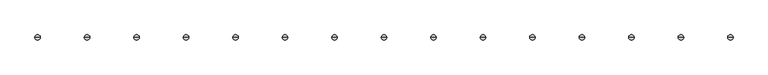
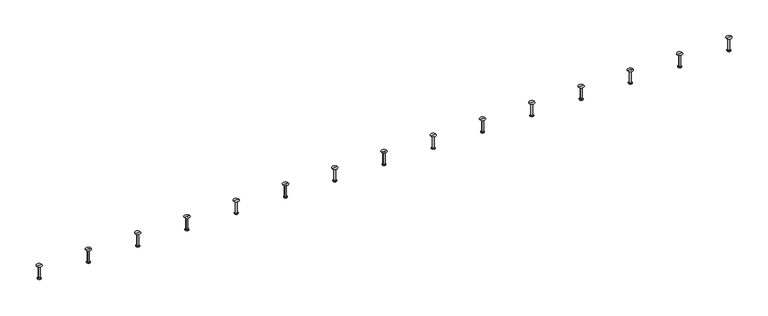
"""IFC4 building model written with IfcOpenShell, lengths in millimetres: fastener geometry, JTA-W JORDAHL® AnchorChannels : JTA-W L=6000 mm."""

from ifc_helpers import new_model, si_unit, frame, origin, place, context, project, spatial, polyline, circle_curve, source, transform, mapped, element, save
from ifc_brep_helpers import plane_surface, cylinder_surface, revolved_surface, advanced_brep


def fastener_90f1b800(model_context):
    return source(origin(), model_context, "Body", "AdvancedBrep", [
        advanced_brep(
        [(3991.6666667, 0.0, -30.0), (3978.1666667, 0.0, -30.0), (4005.1666667, 0.0, -30.0), (3983.1666667, 0.0, -100.0), (3991.6666667, 0.0, -100.0), (4000.1666667, 0.0, -100.0), (3983.1666667, 0.0, -98.0), (4000.1666667, 0.0, -98.0), (3987.1666667, 0.0, -95.6905989), (3996.1666667, 0.0, -95.6905989), (3987.1666667, 0.0, -32.5), (3996.1666667, 0.0, -32.5)],
        [
            (0, 1),
            (1, 2, circle_curve(frame((3991.6666667, 0.0, -30.0), z_axis=(0.0, 0.0, 1.0), x_axis=(1.0, 0.0, 0.0)), 13.5)),
            (2, 0),
            (2, 1, circle_curve(frame((3991.6666667, 0.0, -30.0), z_axis=(0.0, 0.0, 1.0), x_axis=(1.0, 0.0, 0.0)), 13.5)),
            (3, 4),
            (4, 5),
            (5, 3, circle_curve(frame((3991.6666667, 0.0, -100.0), z_axis=(0.0, 0.0, -1.0), x_axis=(1.0, 0.0, 0.0)), 8.5)),
            (3, 5, circle_curve(frame((3991.6666667, 0.0, -100.0), z_axis=(0.0, 0.0, -1.0), x_axis=(1.0, 0.0, 0.0)), 8.5)),
            (6, 3),
            (5, 7),
            (7, 6, circle_curve(frame((3991.6666667, 0.0, -98.0), z_axis=(0.0, 0.0, -1.0), x_axis=(1.0, 0.0, 0.0)), 8.5)),
            (6, 7, circle_curve(frame((3991.6666667, 0.0, -98.0), z_axis=(0.0, 0.0, -1.0), x_axis=(1.0, 0.0, 0.0)), 8.5)),
            (8, 6),
            (7, 9),
            (9, 8, circle_curve(frame((3991.6666667, 0.0, -95.6905989), z_axis=(0.0, 0.0, -1.0), x_axis=(1.0, 0.0, 0.0)), 4.5)),
            (8, 9, circle_curve(frame((3991.6666667, 0.0, -95.6905989), z_axis=(0.0, 0.0, -1.0), x_axis=(1.0, 0.0, 0.0)), 4.5)),
            (10, 8),
            (9, 11),
            (11, 10, circle_curve(frame((3991.6666667, 0.0, -32.5), z_axis=(0.0, 0.0, -1.0), x_axis=(1.0, 0.0, 0.0)), 4.5)),
            (10, 11, circle_curve(frame((3991.6666667, 0.0, -32.5), z_axis=(0.0, 0.0, -1.0), x_axis=(1.0, 0.0, 0.0)), 4.5)),
            (1, 10),
            (11, 2),
        ],
        [
            plane_surface(frame((3991.6666667, 0.0, -30.0), z_axis=(0.0, 0.0, 1.0), x_axis=(1.0, 0.0, 0.0))),
            plane_surface(frame((3991.6666667, 0.0, -100.0), z_axis=(0.0, 0.0, -1.0), x_axis=(1.0, 0.0, 0.0))),
            cylinder_surface(frame((3991.6666667, 0.0, 2284.3150031), z_axis=(0.0, 0.0, 1.0), x_axis=(1.0, 0.0, 0.0)), 8.5),
            revolved_surface(polyline([(4000.1666667, 0.0, -98.0), (3996.1666667, 0.0, -95.6905989)]), (3991.6666667, 0.0, 2284.3150031), (0.0, 0.0, 1.0)),
            cylinder_surface(frame((3991.6666667, 0.0, 2284.3150031), z_axis=(0.0, 0.0, 1.0), x_axis=(1.0, 0.0, 0.0)), 4.5),
            revolved_surface(polyline([(3996.1666667, 0.0, -32.5), (4005.1666667, 0.0, -30.0)]), (3991.6666667, 0.0, 2284.3150031), (0.0, 0.0, 1.0)),
        ],
        [
            (0, [[1, 2, 3]]),
            (0, [[-3, 4, -1]]),
            (1, [[5, 6, 7]]),
            (1, [[-6, -5, 8]]),
            (2, [[9, -7, 10, 11]]),
            (2, [[-10, -8, -9, 12]]),
            (3, [[13, -11, 14, 15]]),
            (3, [[-14, -12, -13, 16]]),
            (4, [[17, -15, 18, 19]]),
            (4, [[-18, -16, -17, 20]]),
            (5, [[21, -19, 22, -2]]),
            (5, [[-22, -20, -21, -4]]),
        ],
    ),
        advanced_brep(
        [(3743.75, 0.0, -30.0), (3730.25, 0.0, -30.0), (3757.25, 0.0, -30.0), (3735.25, 0.0, -100.0), (3743.75, 0.0, -100.0), (3752.25, 0.0, -100.0), (3735.25, 0.0, -98.0), (3752.25, 0.0, -98.0), (3739.25, 0.0, -95.6905989), (3748.25, 0.0, -95.6905989), (3739.25, 0.0, -32.5), (3748.25, 0.0, -32.5)],
        [
            (0, 1),
            (1, 2, circle_curve(frame((3743.75, 0.0, -30.0), z_axis=(0.0, 0.0, 1.0), x_axis=(1.0, 0.0, 0.0)), 13.5)),
            (2, 0),
            (2, 1, circle_curve(frame((3743.75, 0.0, -30.0), z_axis=(0.0, 0.0, 1.0), x_axis=(1.0, 0.0, 0.0)), 13.5)),
            (3, 4),
            (4, 5),
            (5, 3, circle_curve(frame((3743.75, 0.0, -100.0), z_axis=(0.0, 0.0, -1.0), x_axis=(1.0, 0.0, 0.0)), 8.5)),
            (3, 5, circle_curve(frame((3743.75, 0.0, -100.0), z_axis=(0.0, 0.0, -1.0), x_axis=(1.0, 0.0, 0.0)), 8.5)),
            (6, 3),
            (5, 7),
            (7, 6, circle_curve(frame((3743.75, 0.0, -98.0), z_axis=(0.0, 0.0, -1.0), x_axis=(1.0, 0.0, 0.0)), 8.5)),
            (6, 7, circle_curve(frame((3743.75, 0.0, -98.0), z_axis=(0.0, 0.0, -1.0), x_axis=(1.0, 0.0, 0.0)), 8.5)),
            (8, 6),
            (7, 9),
            (9, 8, circle_curve(frame((3743.75, 0.0, -95.6905989), z_axis=(0.0, 0.0, -1.0), x_axis=(1.0, 0.0, 0.0)), 4.5)),
            (8, 9, circle_curve(frame((3743.75, 0.0, -95.6905989), z_axis=(0.0, 0.0, -1.0), x_axis=(1.0, 0.0, 0.0)), 4.5)),
            (10, 8),
            (9, 11),
            (11, 10, circle_curve(frame((3743.75, 0.0, -32.5), z_axis=(0.0, 0.0, -1.0), x_axis=(1.0, 0.0, 0.0)), 4.5)),
            (10, 11, circle_curve(frame((3743.75, 0.0, -32.5), z_axis=(0.0, 0.0, -1.0), x_axis=(1.0, 0.0, 0.0)), 4.5)),
            (1, 10),
            (11, 2),
        ],
        [
            plane_surface(frame((3743.75, 0.0, -30.0), z_axis=(0.0, 0.0, 1.0), x_axis=(1.0, 0.0, 0.0))),
            plane_surface(frame((3743.75, 0.0, -100.0), z_axis=(0.0, 0.0, -1.0), x_axis=(1.0, 0.0, 0.0))),
            cylinder_surface(frame((3743.75, 0.0, 2284.3150031), z_axis=(0.0, 0.0, 1.0), x_axis=(1.0, 0.0, 0.0)), 8.5),
            revolved_surface(polyline([(3752.25, 0.0, -98.0), (3748.25, 0.0, -95.6905989)]), (3743.75, 0.0, 2284.3150031), (0.0, 0.0, 1.0)),
            cylinder_surface(frame((3743.75, 0.0, 2284.3150031), z_axis=(0.0, 0.0, 1.0), x_axis=(1.0, 0.0, 0.0)), 4.5),
            revolved_surface(polyline([(3748.25, 0.0, -32.5), (3757.25, 0.0, -30.0)]), (3743.75, 0.0, 2284.3150031), (0.0, 0.0, 1.0)),
        ],
        [
            (0, [[1, 2, 3]]),
            (0, [[-3, 4, -1]]),
            (1, [[5, 6, 7]]),
            (1, [[-6, -5, 8]]),
            (2, [[9, -7, 10, 11]]),
            (2, [[-10, -8, -9, 12]]),
            (3, [[13, -11, 14, 15]]),
            (3, [[-14, -12, -13, 16]]),
            (4, [[17, -15, 18, 19]]),
            (4, [[-18, -16, -17, 20]]),
            (5, [[21, -19, 22, -2]]),
            (5, [[-22, -20, -21, -4]]),
        ],
    ),
        advanced_brep(
        [(3495.8333333, 0.0, -30.0), (3482.3333333, 0.0, -30.0), (3509.3333333, 0.0, -30.0), (3487.3333333, 0.0, -100.0), (3495.8333333, 0.0, -100.0), (3504.3333333, 0.0, -100.0), (3487.3333333, 0.0, -98.0), (3504.3333333, 0.0, -98.0), (3491.3333333, 0.0, -95.6905989), (3500.3333333, 0.0, -95.6905989), (3491.3333333, 0.0, -32.5), (3500.3333333, 0.0, -32.5)],
        [
            (0, 1),
            (1, 2, circle_curve(frame((3495.8333333, 0.0, -30.0), z_axis=(0.0, 0.0, 1.0), x_axis=(1.0, 0.0, 0.0)), 13.5)),
            (2, 0),
            (2, 1, circle_curve(frame((3495.8333333, 0.0, -30.0), z_axis=(0.0, 0.0, 1.0), x_axis=(1.0, 0.0, 0.0)), 13.5)),
            (3, 4),
            (4, 5),
            (5, 3, circle_curve(frame((3495.8333333, 0.0, -100.0), z_axis=(0.0, 0.0, -1.0), x_axis=(1.0, 0.0, 0.0)), 8.5)),
            (3, 5, circle_curve(frame((3495.8333333, 0.0, -100.0), z_axis=(0.0, 0.0, -1.0), x_axis=(1.0, 0.0, 0.0)), 8.5)),
            (6, 3),
            (5, 7),
            (7, 6, circle_curve(frame((3495.8333333, 0.0, -98.0), z_axis=(0.0, 0.0, -1.0), x_axis=(1.0, 0.0, 0.0)), 8.5)),
            (6, 7, circle_curve(frame((3495.8333333, 0.0, -98.0), z_axis=(0.0, 0.0, -1.0), x_axis=(1.0, 0.0, 0.0)), 8.5)),
            (8, 6),
            (7, 9),
            (9, 8, circle_curve(frame((3495.8333333, 0.0, -95.6905989), z_axis=(0.0, 0.0, -1.0), x_axis=(1.0, 0.0, 0.0)), 4.5)),
            (8, 9, circle_curve(frame((3495.8333333, 0.0, -95.6905989), z_axis=(0.0, 0.0, -1.0), x_axis=(1.0, 0.0, 0.0)), 4.5)),
            (10, 8),
            (9, 11),
            (11, 10, circle_curve(frame((3495.8333333, 0.0, -32.5), z_axis=(0.0, 0.0, -1.0), x_axis=(1.0, 0.0, 0.0)), 4.5)),
            (10, 11, circle_curve(frame((3495.8333333, 0.0, -32.5), z_axis=(0.0, 0.0, -1.0), x_axis=(1.0, 0.0, 0.0)), 4.5)),
            (1, 10),
            (11, 2),
        ],
        [
            plane_surface(frame((3495.8333333, 0.0, -30.0), z_axis=(0.0, 0.0, 1.0), x_axis=(1.0, 0.0, 0.0))),
            plane_surface(frame((3495.8333333, 0.0, -100.0), z_axis=(0.0, 0.0, -1.0), x_axis=(1.0, 0.0, 0.0))),
            cylinder_surface(frame((3495.8333333, 0.0, 2284.3150031), z_axis=(0.0, 0.0, 1.0), x_axis=(1.0, 0.0, 0.0)), 8.5),
            revolved_surface(polyline([(3504.3333333, 0.0, -98.0), (3500.3333333, 0.0, -95.6905989)]), (3495.8333333, 0.0, 2284.3150031), (0.0, 0.0, 1.0)),
            cylinder_surface(frame((3495.8333333, 0.0, 2284.3150031), z_axis=(0.0, 0.0, 1.0), x_axis=(1.0, 0.0, 0.0)), 4.5),
            revolved_surface(polyline([(3500.3333333, 0.0, -32.5), (3509.3333333, 0.0, -30.0)]), (3495.8333333, 0.0, 2284.3150031), (0.0, 0.0, 1.0)),
        ],
        [
            (0, [[1, 2, 3]]),
            (0, [[-3, 4, -1]]),
            (1, [[5, 6, 7]]),
            (1, [[-6, -5, 8]]),
            (2, [[9, -7, 10, 11]]),
            (2, [[-10, -8, -9, 12]]),
            (3, [[13, -11, 14, 15]]),
            (3, [[-14, -12, -13, 16]]),
            (4, [[17, -15, 18, 19]]),
            (4, [[-18, -16, -17, 20]]),
            (5, [[21, -19, 22, -2]]),
            (5, [[-22, -20, -21, -4]]),
        ],
    ),
        advanced_brep(
        [(3247.9166667, 0.0, -30.0), (3234.4166667, 0.0, -30.0), (3261.4166667, 0.0, -30.0), (3239.4166667, 0.0, -100.0), (3247.9166667, 0.0, -100.0), (3256.4166667, 0.0, -100.0), (3239.4166667, 0.0, -98.0), (3256.4166667, 0.0, -98.0), (3243.4166667, 0.0, -95.6905989), (3252.4166667, 0.0, -95.6905989), (3243.4166667, 0.0, -32.5), (3252.4166667, 0.0, -32.5)],
        [
            (0, 1),
            (1, 2, circle_curve(frame((3247.9166667, 0.0, -30.0), z_axis=(0.0, 0.0, 1.0), x_axis=(1.0, 0.0, 0.0)), 13.5)),
            (2, 0),
            (2, 1, circle_curve(frame((3247.9166667, 0.0, -30.0), z_axis=(0.0, 0.0, 1.0), x_axis=(1.0, 0.0, 0.0)), 13.5)),
            (3, 4),
            (4, 5),
            (5, 3, circle_curve(frame((3247.9166667, 0.0, -100.0), z_axis=(0.0, 0.0, -1.0), x_axis=(1.0, 0.0, 0.0)), 8.5)),
            (3, 5, circle_curve(frame((3247.9166667, 0.0, -100.0), z_axis=(0.0, 0.0, -1.0), x_axis=(1.0, 0.0, 0.0)), 8.5)),
            (6, 3),
            (5, 7),
            (7, 6, circle_curve(frame((3247.9166667, 0.0, -98.0), z_axis=(0.0, 0.0, -1.0), x_axis=(1.0, 0.0, 0.0)), 8.5)),
            (6, 7, circle_curve(frame((3247.9166667, 0.0, -98.0), z_axis=(0.0, 0.0, -1.0), x_axis=(1.0, 0.0, 0.0)), 8.5)),
            (8, 6),
            (7, 9),
            (9, 8, circle_curve(frame((3247.9166667, 0.0, -95.6905989), z_axis=(0.0, 0.0, -1.0), x_axis=(1.0, 0.0, 0.0)), 4.5)),
            (8, 9, circle_curve(frame((3247.9166667, 0.0, -95.6905989), z_axis=(0.0, 0.0, -1.0), x_axis=(1.0, 0.0, 0.0)), 4.5)),
            (10, 8),
            (9, 11),
            (11, 10, circle_curve(frame((3247.9166667, 0.0, -32.5), z_axis=(0.0, 0.0, -1.0), x_axis=(1.0, 0.0, 0.0)), 4.5)),
            (10, 11, circle_curve(frame((3247.9166667, 0.0, -32.5), z_axis=(0.0, 0.0, -1.0), x_axis=(1.0, 0.0, 0.0)), 4.5)),
            (1, 10),
            (11, 2),
        ],
        [
            plane_surface(frame((3247.9166667, 0.0, -30.0), z_axis=(0.0, 0.0, 1.0), x_axis=(1.0, 0.0, 0.0))),
            plane_surface(frame((3247.9166667, 0.0, -100.0), z_axis=(0.0, 0.0, -1.0), x_axis=(1.0, 0.0, 0.0))),
            cylinder_surface(frame((3247.9166667, 0.0, 2284.3150031), z_axis=(0.0, 0.0, 1.0), x_axis=(1.0, 0.0, 0.0)), 8.5),
            revolved_surface(polyline([(3256.4166667, 0.0, -98.0), (3252.4166667, 0.0, -95.6905989)]), (3247.9166667, 0.0, 2284.3150031), (0.0, 0.0, 1.0)),
            cylinder_surface(frame((3247.9166667, 0.0, 2284.3150031), z_axis=(0.0, 0.0, 1.0), x_axis=(1.0, 0.0, 0.0)), 4.5),
            revolved_surface(polyline([(3252.4166667, 0.0, -32.5), (3261.4166667, 0.0, -30.0)]), (3247.9166667, 0.0, 2284.3150031), (0.0, 0.0, 1.0)),
        ],
        [
            (0, [[1, 2, 3]]),
            (0, [[-3, 4, -1]]),
            (1, [[5, 6, 7]]),
            (1, [[-6, -5, 8]]),
            (2, [[9, -7, 10, 11]]),
            (2, [[-10, -8, -9, 12]]),
            (3, [[13, -11, 14, 15]]),
            (3, [[-14, -12, -13, 16]]),
            (4, [[17, -15, 18, 19]]),
            (4, [[-18, -16, -17, 20]]),
            (5, [[21, -19, 22, -2]]),
            (5, [[-22, -20, -21, -4]]),
        ],
    ),
        advanced_brep(
        [(3000.0, 0.0, -30.0), (2986.5, 0.0, -30.0), (3013.5, 0.0, -30.0), (2991.5, 0.0, -100.0), (3000.0, 0.0, -100.0), (3008.5, 0.0, -100.0), (2991.5, 0.0, -98.0), (3008.5, 0.0, -98.0), (2995.5, 0.0, -95.6905989), (3004.5, 0.0, -95.6905989), (2995.5, 0.0, -32.5), (3004.5, 0.0, -32.5)],
        [
            (0, 1),
            (1, 2, circle_curve(frame((3000.0, 0.0, -30.0), z_axis=(0.0, 0.0, 1.0), x_axis=(1.0, 0.0, 0.0)), 13.5)),
            (2, 0),
            (2, 1, circle_curve(frame((3000.0, 0.0, -30.0), z_axis=(0.0, 0.0, 1.0), x_axis=(1.0, 0.0, 0.0)), 13.5)),
            (3, 4),
            (4, 5),
            (5, 3, circle_curve(frame((3000.0, 0.0, -100.0), z_axis=(0.0, 0.0, -1.0), x_axis=(1.0, 0.0, 0.0)), 8.5)),
            (3, 5, circle_curve(frame((3000.0, 0.0, -100.0), z_axis=(0.0, 0.0, -1.0), x_axis=(1.0, 0.0, 0.0)), 8.5)),
            (6, 3),
            (5, 7),
            (7, 6, circle_curve(frame((3000.0, 0.0, -98.0), z_axis=(0.0, 0.0, -1.0), x_axis=(1.0, 0.0, 0.0)), 8.5)),
            (6, 7, circle_curve(frame((3000.0, 0.0, -98.0), z_axis=(0.0, 0.0, -1.0), x_axis=(1.0, 0.0, 0.0)), 8.5)),
            (8, 6),
            (7, 9),
            (9, 8, circle_curve(frame((3000.0, 0.0, -95.6905989), z_axis=(0.0, 0.0, -1.0), x_axis=(1.0, 0.0, 0.0)), 4.5)),
            (8, 9, circle_curve(frame((3000.0, 0.0, -95.6905989), z_axis=(0.0, 0.0, -1.0), x_axis=(1.0, 0.0, 0.0)), 4.5)),
            (10, 8),
            (9, 11),
            (11, 10, circle_curve(frame((3000.0, 0.0, -32.5), z_axis=(0.0, 0.0, -1.0), x_axis=(1.0, 0.0, 0.0)), 4.5)),
            (10, 11, circle_curve(frame((3000.0, 0.0, -32.5), z_axis=(0.0, 0.0, -1.0), x_axis=(1.0, 0.0, 0.0)), 4.5)),
            (1, 10),
            (11, 2),
        ],
        [
            plane_surface(frame((3000.0, 0.0, -30.0), z_axis=(0.0, 0.0, 1.0), x_axis=(1.0, 0.0, 0.0))),
            plane_surface(frame((3000.0, 0.0, -100.0), z_axis=(0.0, 0.0, -1.0), x_axis=(1.0, 0.0, 0.0))),
            cylinder_surface(frame((3000.0, 0.0, 2284.3150031), z_axis=(0.0, 0.0, 1.0), x_axis=(1.0, 0.0, 0.0)), 8.5),
            revolved_surface(polyline([(3008.5, 0.0, -98.0), (3004.5, 0.0, -95.6905989)]), (3000.0, 0.0, 2284.3150031), (0.0, 0.0, 1.0)),
            cylinder_surface(frame((3000.0, 0.0, 2284.3150031), z_axis=(0.0, 0.0, 1.0), x_axis=(1.0, 0.0, 0.0)), 4.5),
            revolved_surface(polyline([(3004.5, 0.0, -32.5), (3013.5, 0.0, -30.0)]), (3000.0, 0.0, 2284.3150031), (0.0, 0.0, 1.0)),
        ],
        [
            (0, [[1, 2, 3]]),
            (0, [[-3, 4, -1]]),
            (1, [[5, 6, 7]]),
            (1, [[-6, -5, 8]]),
            (2, [[9, -7, 10, 11]]),
            (2, [[-10, -8, -9, 12]]),
            (3, [[13, -11, 14, 15]]),
            (3, [[-14, -12, -13, 16]]),
            (4, [[17, -15, 18, 19]]),
            (4, [[-18, -16, -17, 20]]),
            (5, [[21, -19, 22, -2]]),
            (5, [[-22, -20, -21, -4]]),
        ],
    ),
        advanced_brep(
        [(2752.0833333, 0.0, -30.0), (2738.5833333, 0.0, -30.0), (2765.5833333, 0.0, -30.0), (2743.5833333, 0.0, -100.0), (2752.0833333, 0.0, -100.0), (2760.5833333, 0.0, -100.0), (2743.5833333, 0.0, -98.0), (2760.5833333, 0.0, -98.0), (2747.5833333, 0.0, -95.6905989), (2756.5833333, 0.0, -95.6905989), (2747.5833333, 0.0, -32.5), (2756.5833333, 0.0, -32.5)],
        [
            (0, 1),
            (1, 2, circle_curve(frame((2752.0833333, 0.0, -30.0), z_axis=(0.0, 0.0, 1.0), x_axis=(1.0, 0.0, 0.0)), 13.5)),
            (2, 0),
            (2, 1, circle_curve(frame((2752.0833333, 0.0, -30.0), z_axis=(0.0, 0.0, 1.0), x_axis=(1.0, 0.0, 0.0)), 13.5)),
            (3, 4),
            (4, 5),
            (5, 3, circle_curve(frame((2752.0833333, 0.0, -100.0), z_axis=(0.0, 0.0, -1.0), x_axis=(1.0, 0.0, 0.0)), 8.5)),
            (3, 5, circle_curve(frame((2752.0833333, 0.0, -100.0), z_axis=(0.0, 0.0, -1.0), x_axis=(1.0, 0.0, 0.0)), 8.5)),
            (6, 3),
            (5, 7),
            (7, 6, circle_curve(frame((2752.0833333, 0.0, -98.0), z_axis=(0.0, 0.0, -1.0), x_axis=(1.0, 0.0, 0.0)), 8.5)),
            (6, 7, circle_curve(frame((2752.0833333, 0.0, -98.0), z_axis=(0.0, 0.0, -1.0), x_axis=(1.0, 0.0, 0.0)), 8.5)),
            (8, 6),
            (7, 9),
            (9, 8, circle_curve(frame((2752.0833333, 0.0, -95.6905989), z_axis=(0.0, 0.0, -1.0), x_axis=(1.0, 0.0, 0.0)), 4.5)),
            (8, 9, circle_curve(frame((2752.0833333, 0.0, -95.6905989), z_axis=(0.0, 0.0, -1.0), x_axis=(1.0, 0.0, 0.0)), 4.5)),
            (10, 8),
            (9, 11),
            (11, 10, circle_curve(frame((2752.0833333, 0.0, -32.5), z_axis=(0.0, 0.0, -1.0), x_axis=(1.0, 0.0, 0.0)), 4.5)),
            (10, 11, circle_curve(frame((2752.0833333, 0.0, -32.5), z_axis=(0.0, 0.0, -1.0), x_axis=(1.0, 0.0, 0.0)), 4.5)),
            (1, 10),
            (11, 2),
        ],
        [
            plane_surface(frame((2752.0833333, 0.0, -30.0), z_axis=(0.0, 0.0, 1.0), x_axis=(1.0, 0.0, 0.0))),
            plane_surface(frame((2752.0833333, 0.0, -100.0), z_axis=(0.0, 0.0, -1.0), x_axis=(1.0, 0.0, 0.0))),
            cylinder_surface(frame((2752.0833333, 0.0, 2284.3150031), z_axis=(0.0, 0.0, 1.0), x_axis=(1.0, 0.0, 0.0)), 8.5),
            revolved_surface(polyline([(2760.5833333, 0.0, -98.0), (2756.5833333, 0.0, -95.6905989)]), (2752.0833333, 0.0, 2284.3150031), (0.0, 0.0, 1.0)),
            cylinder_surface(frame((2752.0833333, 0.0, 2284.3150031), z_axis=(0.0, 0.0, 1.0), x_axis=(1.0, 0.0, 0.0)), 4.5),
            revolved_surface(polyline([(2756.5833333, 0.0, -32.5), (2765.5833333, 0.0, -30.0)]), (2752.0833333, 0.0, 2284.3150031), (0.0, 0.0, 1.0)),
        ],
        [
            (0, [[1, 2, 3]]),
            (0, [[-3, 4, -1]]),
            (1, [[5, 6, 7]]),
            (1, [[-6, -5, 8]]),
            (2, [[9, -7, 10, 11]]),
            (2, [[-10, -8, -9, 12]]),
            (3, [[13, -11, 14, 15]]),
            (3, [[-14, -12, -13, 16]]),
            (4, [[17, -15, 18, 19]]),
            (4, [[-18, -16, -17, 20]]),
            (5, [[21, -19, 22, -2]]),
            (5, [[-22, -20, -21, -4]]),
        ],
    ),
        advanced_brep(
        [(2504.1666667, 0.0, -30.0), (2490.6666667, 0.0, -30.0), (2517.6666667, 0.0, -30.0), (2495.6666667, 0.0, -100.0), (2504.1666667, 0.0, -100.0), (2512.6666667, 0.0, -100.0), (2495.6666667, 0.0, -98.0), (2512.6666667, 0.0, -98.0), (2499.6666667, 0.0, -95.6905989), (2508.6666667, 0.0, -95.6905989), (2499.6666667, 0.0, -32.5), (2508.6666667, 0.0, -32.5)],
        [
            (0, 1),
            (1, 2, circle_curve(frame((2504.1666667, 0.0, -30.0), z_axis=(0.0, 0.0, 1.0), x_axis=(1.0, 0.0, 0.0)), 13.5)),
            (2, 0),
            (2, 1, circle_curve(frame((2504.1666667, 0.0, -30.0), z_axis=(0.0, 0.0, 1.0), x_axis=(1.0, 0.0, 0.0)), 13.5)),
            (3, 4),
            (4, 5),
            (5, 3, circle_curve(frame((2504.1666667, 0.0, -100.0), z_axis=(0.0, 0.0, -1.0), x_axis=(1.0, 0.0, 0.0)), 8.5)),
            (3, 5, circle_curve(frame((2504.1666667, 0.0, -100.0), z_axis=(0.0, 0.0, -1.0), x_axis=(1.0, 0.0, 0.0)), 8.5)),
            (6, 3),
            (5, 7),
            (7, 6, circle_curve(frame((2504.1666667, 0.0, -98.0), z_axis=(0.0, 0.0, -1.0), x_axis=(1.0, 0.0, 0.0)), 8.5)),
            (6, 7, circle_curve(frame((2504.1666667, 0.0, -98.0), z_axis=(0.0, 0.0, -1.0), x_axis=(1.0, 0.0, 0.0)), 8.5)),
            (8, 6),
            (7, 9),
            (9, 8, circle_curve(frame((2504.1666667, 0.0, -95.6905989), z_axis=(0.0, 0.0, -1.0), x_axis=(1.0, 0.0, 0.0)), 4.5)),
            (8, 9, circle_curve(frame((2504.1666667, 0.0, -95.6905989), z_axis=(0.0, 0.0, -1.0), x_axis=(1.0, 0.0, 0.0)), 4.5)),
            (10, 8),
            (9, 11),
            (11, 10, circle_curve(frame((2504.1666667, 0.0, -32.5), z_axis=(0.0, 0.0, -1.0), x_axis=(1.0, 0.0, 0.0)), 4.5)),
            (10, 11, circle_curve(frame((2504.1666667, 0.0, -32.5), z_axis=(0.0, 0.0, -1.0), x_axis=(1.0, 0.0, 0.0)), 4.5)),
            (1, 10),
            (11, 2),
        ],
        [
            plane_surface(frame((2504.1666667, 0.0, -30.0), z_axis=(0.0, 0.0, 1.0), x_axis=(1.0, 0.0, 0.0))),
            plane_surface(frame((2504.1666667, 0.0, -100.0), z_axis=(0.0, 0.0, -1.0), x_axis=(1.0, 0.0, 0.0))),
            cylinder_surface(frame((2504.1666667, 0.0, 2284.3150031), z_axis=(0.0, 0.0, 1.0), x_axis=(1.0, 0.0, 0.0)), 8.5),
            revolved_surface(polyline([(2512.6666667, 0.0, -98.0), (2508.6666667, 0.0, -95.6905989)]), (2504.1666667, 0.0, 2284.3150031), (0.0, 0.0, 1.0)),
            cylinder_surface(frame((2504.1666667, 0.0, 2284.3150031), z_axis=(0.0, 0.0, 1.0), x_axis=(1.0, 0.0, 0.0)), 4.5),
            revolved_surface(polyline([(2508.6666667, 0.0, -32.5), (2517.6666667, 0.0, -30.0)]), (2504.1666667, 0.0, 2284.3150031), (0.0, 0.0, 1.0)),
        ],
        [
            (0, [[1, 2, 3]]),
            (0, [[-3, 4, -1]]),
            (1, [[5, 6, 7]]),
            (1, [[-6, -5, 8]]),
            (2, [[9, -7, 10, 11]]),
            (2, [[-10, -8, -9, 12]]),
            (3, [[13, -11, 14, 15]]),
            (3, [[-14, -12, -13, 16]]),
            (4, [[17, -15, 18, 19]]),
            (4, [[-18, -16, -17, 20]]),
            (5, [[21, -19, 22, -2]]),
            (5, [[-22, -20, -21, -4]]),
        ],
    ),
        advanced_brep(
        [(2256.25, 0.0, -30.0), (2242.75, 0.0, -30.0), (2269.75, 0.0, -30.0), (2247.75, 0.0, -100.0), (2256.25, 0.0, -100.0), (2264.75, 0.0, -100.0), (2247.75, 0.0, -98.0), (2264.75, 0.0, -98.0), (2251.75, 0.0, -95.6905989), (2260.75, 0.0, -95.6905989), (2251.75, 0.0, -32.5), (2260.75, 0.0, -32.5)],
        [
            (0, 1),
            (1, 2, circle_curve(frame((2256.25, 0.0, -30.0), z_axis=(0.0, 0.0, 1.0), x_axis=(1.0, 0.0, 0.0)), 13.5)),
            (2, 0),
            (2, 1, circle_curve(frame((2256.25, 0.0, -30.0), z_axis=(0.0, 0.0, 1.0), x_axis=(1.0, 0.0, 0.0)), 13.5)),
            (3, 4),
            (4, 5),
            (5, 3, circle_curve(frame((2256.25, 0.0, -100.0), z_axis=(0.0, 0.0, -1.0), x_axis=(1.0, 0.0, 0.0)), 8.5)),
            (3, 5, circle_curve(frame((2256.25, 0.0, -100.0), z_axis=(0.0, 0.0, -1.0), x_axis=(1.0, 0.0, 0.0)), 8.5)),
            (6, 3),
            (5, 7),
            (7, 6, circle_curve(frame((2256.25, 0.0, -98.0), z_axis=(0.0, 0.0, -1.0), x_axis=(1.0, 0.0, 0.0)), 8.5)),
            (6, 7, circle_curve(frame((2256.25, 0.0, -98.0), z_axis=(0.0, 0.0, -1.0), x_axis=(1.0, 0.0, 0.0)), 8.5)),
            (8, 6),
            (7, 9),
            (9, 8, circle_curve(frame((2256.25, 0.0, -95.6905989), z_axis=(0.0, 0.0, -1.0), x_axis=(1.0, 0.0, 0.0)), 4.5)),
            (8, 9, circle_curve(frame((2256.25, 0.0, -95.6905989), z_axis=(0.0, 0.0, -1.0), x_axis=(1.0, 0.0, 0.0)), 4.5)),
            (10, 8),
            (9, 11),
            (11, 10, circle_curve(frame((2256.25, 0.0, -32.5), z_axis=(0.0, 0.0, -1.0), x_axis=(1.0, 0.0, 0.0)), 4.5)),
            (10, 11, circle_curve(frame((2256.25, 0.0, -32.5), z_axis=(0.0, 0.0, -1.0), x_axis=(1.0, 0.0, 0.0)), 4.5)),
            (1, 10),
            (11, 2),
        ],
        [
            plane_surface(frame((2256.25, 0.0, -30.0), z_axis=(0.0, 0.0, 1.0), x_axis=(1.0, 0.0, 0.0))),
            plane_surface(frame((2256.25, 0.0, -100.0), z_axis=(0.0, 0.0, -1.0), x_axis=(1.0, 0.0, 0.0))),
            cylinder_surface(frame((2256.25, 0.0, 2284.3150031), z_axis=(0.0, 0.0, 1.0), x_axis=(1.0, 0.0, 0.0)), 8.5),
            revolved_surface(polyline([(2264.75, 0.0, -98.0), (2260.75, 0.0, -95.6905989)]), (2256.25, 0.0, 2284.3150031), (0.0, 0.0, 1.0)),
            cylinder_surface(frame((2256.25, 0.0, 2284.3150031), z_axis=(0.0, 0.0, 1.0), x_axis=(1.0, 0.0, 0.0)), 4.5),
            revolved_surface(polyline([(2260.75, 0.0, -32.5), (2269.75, 0.0, -30.0)]), (2256.25, 0.0, 2284.3150031), (0.0, 0.0, 1.0)),
        ],
        [
            (0, [[1, 2, 3]]),
            (0, [[-3, 4, -1]]),
            (1, [[5, 6, 7]]),
            (1, [[-6, -5, 8]]),
            (2, [[9, -7, 10, 11]]),
            (2, [[-10, -8, -9, 12]]),
            (3, [[13, -11, 14, 15]]),
            (3, [[-14, -12, -13, 16]]),
            (4, [[17, -15, 18, 19]]),
            (4, [[-18, -16, -17, 20]]),
            (5, [[21, -19, 22, -2]]),
            (5, [[-22, -20, -21, -4]]),
        ],
    ),
        advanced_brep(
        [(2008.3333333, 0.0, -30.0), (1994.8333333, 0.0, -30.0), (2021.8333333, 0.0, -30.0), (1999.8333333, 0.0, -100.0), (2008.3333333, 0.0, -100.0), (2016.8333333, 0.0, -100.0), (1999.8333333, 0.0, -98.0), (2016.8333333, 0.0, -98.0), (2003.8333333, 0.0, -95.6905989), (2012.8333333, 0.0, -95.6905989), (2003.8333333, 0.0, -32.5), (2012.8333333, 0.0, -32.5)],
        [
            (0, 1),
            (1, 2, circle_curve(frame((2008.3333333, 0.0, -30.0), z_axis=(0.0, 0.0, 1.0), x_axis=(1.0, 0.0, 0.0)), 13.5)),
            (2, 0),
            (2, 1, circle_curve(frame((2008.3333333, 0.0, -30.0), z_axis=(0.0, 0.0, 1.0), x_axis=(1.0, 0.0, 0.0)), 13.5)),
            (3, 4),
            (4, 5),
            (5, 3, circle_curve(frame((2008.3333333, 0.0, -100.0), z_axis=(0.0, 0.0, -1.0), x_axis=(1.0, 0.0, 0.0)), 8.5)),
            (3, 5, circle_curve(frame((2008.3333333, 0.0, -100.0), z_axis=(0.0, 0.0, -1.0), x_axis=(1.0, 0.0, 0.0)), 8.5)),
            (6, 3),
            (5, 7),
            (7, 6, circle_curve(frame((2008.3333333, 0.0, -98.0), z_axis=(0.0, 0.0, -1.0), x_axis=(1.0, 0.0, 0.0)), 8.5)),
            (6, 7, circle_curve(frame((2008.3333333, 0.0, -98.0), z_axis=(0.0, 0.0, -1.0), x_axis=(1.0, 0.0, 0.0)), 8.5)),
            (8, 6),
            (7, 9),
            (9, 8, circle_curve(frame((2008.3333333, 0.0, -95.6905989), z_axis=(0.0, 0.0, -1.0), x_axis=(1.0, 0.0, 0.0)), 4.5)),
            (8, 9, circle_curve(frame((2008.3333333, 0.0, -95.6905989), z_axis=(0.0, 0.0, -1.0), x_axis=(1.0, 0.0, 0.0)), 4.5)),
            (10, 8),
            (9, 11),
            (11, 10, circle_curve(frame((2008.3333333, 0.0, -32.5), z_axis=(0.0, 0.0, -1.0), x_axis=(1.0, 0.0, 0.0)), 4.5)),
            (10, 11, circle_curve(frame((2008.3333333, 0.0, -32.5), z_axis=(0.0, 0.0, -1.0), x_axis=(1.0, 0.0, 0.0)), 4.5)),
            (1, 10),
            (11, 2),
        ],
        [
            plane_surface(frame((2008.3333333, 0.0, -30.0), z_axis=(0.0, 0.0, 1.0), x_axis=(1.0, 0.0, 0.0))),
            plane_surface(frame((2008.3333333, 0.0, -100.0), z_axis=(0.0, 0.0, -1.0), x_axis=(1.0, 0.0, 0.0))),
            cylinder_surface(frame((2008.3333333, 0.0, 2284.3150031), z_axis=(0.0, 0.0, 1.0), x_axis=(1.0, 0.0, 0.0)), 8.5),
            revolved_surface(polyline([(2016.8333333, 0.0, -98.0), (2012.8333333, 0.0, -95.6905989)]), (2008.3333333, 0.0, 2284.3150031), (0.0, 0.0, 1.0)),
            cylinder_surface(frame((2008.3333333, 0.0, 2284.3150031), z_axis=(0.0, 0.0, 1.0), x_axis=(1.0, 0.0, 0.0)), 4.5),
            revolved_surface(polyline([(2012.8333333, 0.0, -32.5), (2021.8333333, 0.0, -30.0)]), (2008.3333333, 0.0, 2284.3150031), (0.0, 0.0, 1.0)),
        ],
        [
            (0, [[1, 2, 3]]),
            (0, [[-3, 4, -1]]),
            (1, [[5, 6, 7]]),
            (1, [[-6, -5, 8]]),
            (2, [[9, -7, 10, 11]]),
            (2, [[-10, -8, -9, 12]]),
            (3, [[13, -11, 14, 15]]),
            (3, [[-14, -12, -13, 16]]),
            (4, [[17, -15, 18, 19]]),
            (4, [[-18, -16, -17, 20]]),
            (5, [[21, -19, 22, -2]]),
            (5, [[-22, -20, -21, -4]]),
        ],
    ),
        advanced_brep(
        [(1760.4166667, 0.0, -30.0), (1746.9166667, 0.0, -30.0), (1773.9166667, 0.0, -30.0), (1751.9166667, 0.0, -100.0), (1760.4166667, 0.0, -100.0), (1768.9166667, 0.0, -100.0), (1751.9166667, 0.0, -98.0), (1768.9166667, 0.0, -98.0), (1755.9166667, 0.0, -95.6905989), (1764.9166667, 0.0, -95.6905989), (1755.9166667, 0.0, -32.5), (1764.9166667, 0.0, -32.5)],
        [
            (0, 1),
            (1, 2, circle_curve(frame((1760.4166667, 0.0, -30.0), z_axis=(0.0, 0.0, 1.0), x_axis=(1.0, 0.0, 0.0)), 13.5)),
            (2, 0),
            (2, 1, circle_curve(frame((1760.4166667, 0.0, -30.0), z_axis=(0.0, 0.0, 1.0), x_axis=(1.0, 0.0, 0.0)), 13.5)),
            (3, 4),
            (4, 5),
            (5, 3, circle_curve(frame((1760.4166667, 0.0, -100.0), z_axis=(0.0, 0.0, -1.0), x_axis=(1.0, 0.0, 0.0)), 8.5)),
            (3, 5, circle_curve(frame((1760.4166667, 0.0, -100.0), z_axis=(0.0, 0.0, -1.0), x_axis=(1.0, 0.0, 0.0)), 8.5)),
            (6, 3),
            (5, 7),
            (7, 6, circle_curve(frame((1760.4166667, 0.0, -98.0), z_axis=(0.0, 0.0, -1.0), x_axis=(1.0, 0.0, 0.0)), 8.5)),
            (6, 7, circle_curve(frame((1760.4166667, 0.0, -98.0), z_axis=(0.0, 0.0, -1.0), x_axis=(1.0, 0.0, 0.0)), 8.5)),
            (8, 6),
            (7, 9),
            (9, 8, circle_curve(frame((1760.4166667, 0.0, -95.6905989), z_axis=(0.0, 0.0, -1.0), x_axis=(1.0, 0.0, 0.0)), 4.5)),
            (8, 9, circle_curve(frame((1760.4166667, 0.0, -95.6905989), z_axis=(0.0, 0.0, -1.0), x_axis=(1.0, 0.0, 0.0)), 4.5)),
            (10, 8),
            (9, 11),
            (11, 10, circle_curve(frame((1760.4166667, 0.0, -32.5), z_axis=(0.0, 0.0, -1.0), x_axis=(1.0, 0.0, 0.0)), 4.5)),
            (10, 11, circle_curve(frame((1760.4166667, 0.0, -32.5), z_axis=(0.0, 0.0, -1.0), x_axis=(1.0, 0.0, 0.0)), 4.5)),
            (1, 10),
            (11, 2),
        ],
        [
            plane_surface(frame((1760.4166667, 0.0, -30.0), z_axis=(0.0, 0.0, 1.0), x_axis=(1.0, 0.0, 0.0))),
            plane_surface(frame((1760.4166667, 0.0, -100.0), z_axis=(0.0, 0.0, -1.0), x_axis=(1.0, 0.0, 0.0))),
            cylinder_surface(frame((1760.4166667, 0.0, 2284.3150031), z_axis=(0.0, 0.0, 1.0), x_axis=(1.0, 0.0, 0.0)), 8.5),
            revolved_surface(polyline([(1768.9166667, 0.0, -98.0), (1764.9166667, 0.0, -95.6905989)]), (1760.4166667, 0.0, 2284.3150031), (0.0, 0.0, 1.0)),
            cylinder_surface(frame((1760.4166667, 0.0, 2284.3150031), z_axis=(0.0, 0.0, 1.0), x_axis=(1.0, 0.0, 0.0)), 4.5),
            revolved_surface(polyline([(1764.9166667, 0.0, -32.5), (1773.9166667, 0.0, -30.0)]), (1760.4166667, 0.0, 2284.3150031), (0.0, 0.0, 1.0)),
        ],
        [
            (0, [[1, 2, 3]]),
            (0, [[-3, 4, -1]]),
            (1, [[5, 6, 7]]),
            (1, [[-6, -5, 8]]),
            (2, [[9, -7, 10, 11]]),
            (2, [[-10, -8, -9, 12]]),
            (3, [[13, -11, 14, 15]]),
            (3, [[-14, -12, -13, 16]]),
            (4, [[17, -15, 18, 19]]),
            (4, [[-18, -16, -17, 20]]),
            (5, [[21, -19, 22, -2]]),
            (5, [[-22, -20, -21, -4]]),
        ],
    ),
        advanced_brep(
        [(1512.5, 0.0, -30.0), (1499.0, 0.0, -30.0), (1526.0, 0.0, -30.0), (1504.0, 0.0, -100.0), (1512.5, 0.0, -100.0), (1521.0, 0.0, -100.0), (1504.0, 0.0, -98.0), (1521.0, 0.0, -98.0), (1508.0, 0.0, -95.6905989), (1517.0, 0.0, -95.6905989), (1508.0, 0.0, -32.5), (1517.0, 0.0, -32.5)],
        [
            (0, 1),
            (1, 2, circle_curve(frame((1512.5, 0.0, -30.0), z_axis=(0.0, 0.0, 1.0), x_axis=(1.0, 0.0, 0.0)), 13.5)),
            (2, 0),
            (2, 1, circle_curve(frame((1512.5, 0.0, -30.0), z_axis=(0.0, 0.0, 1.0), x_axis=(1.0, 0.0, 0.0)), 13.5)),
            (3, 4),
            (4, 5),
            (5, 3, circle_curve(frame((1512.5, 0.0, -100.0), z_axis=(0.0, 0.0, -1.0), x_axis=(1.0, 0.0, 0.0)), 8.5)),
            (3, 5, circle_curve(frame((1512.5, 0.0, -100.0), z_axis=(0.0, 0.0, -1.0), x_axis=(1.0, 0.0, 0.0)), 8.5)),
            (6, 3),
            (5, 7),
            (7, 6, circle_curve(frame((1512.5, 0.0, -98.0), z_axis=(0.0, 0.0, -1.0), x_axis=(1.0, 0.0, 0.0)), 8.5)),
            (6, 7, circle_curve(frame((1512.5, 0.0, -98.0), z_axis=(0.0, 0.0, -1.0), x_axis=(1.0, 0.0, 0.0)), 8.5)),
            (8, 6),
            (7, 9),
            (9, 8, circle_curve(frame((1512.5, 0.0, -95.6905989), z_axis=(0.0, 0.0, -1.0), x_axis=(1.0, 0.0, 0.0)), 4.5)),
            (8, 9, circle_curve(frame((1512.5, 0.0, -95.6905989), z_axis=(0.0, 0.0, -1.0), x_axis=(1.0, 0.0, 0.0)), 4.5)),
            (10, 8),
            (9, 11),
            (11, 10, circle_curve(frame((1512.5, 0.0, -32.5), z_axis=(0.0, 0.0, -1.0), x_axis=(1.0, 0.0, 0.0)), 4.5)),
            (10, 11, circle_curve(frame((1512.5, 0.0, -32.5), z_axis=(0.0, 0.0, -1.0), x_axis=(1.0, 0.0, 0.0)), 4.5)),
            (1, 10),
            (11, 2),
        ],
        [
            plane_surface(frame((1512.5, 0.0, -30.0), z_axis=(0.0, 0.0, 1.0), x_axis=(1.0, 0.0, 0.0))),
            plane_surface(frame((1512.5, 0.0, -100.0), z_axis=(0.0, 0.0, -1.0), x_axis=(1.0, 0.0, 0.0))),
            cylinder_surface(frame((1512.5, 0.0, 2284.3150031), z_axis=(0.0, 0.0, 1.0), x_axis=(1.0, 0.0, 0.0)), 8.5),
            revolved_surface(polyline([(1521.0, 0.0, -98.0), (1517.0, 0.0, -95.6905989)]), (1512.5, 0.0, 2284.3150031), (0.0, 0.0, 1.0)),
            cylinder_surface(frame((1512.5, 0.0, 2284.3150031), z_axis=(0.0, 0.0, 1.0), x_axis=(1.0, 0.0, 0.0)), 4.5),
            revolved_surface(polyline([(1517.0, 0.0, -32.5), (1526.0, 0.0, -30.0)]), (1512.5, 0.0, 2284.3150031), (0.0, 0.0, 1.0)),
        ],
        [
            (0, [[1, 2, 3]]),
            (0, [[-3, 4, -1]]),
            (1, [[5, 6, 7]]),
            (1, [[-6, -5, 8]]),
            (2, [[9, -7, 10, 11]]),
            (2, [[-10, -8, -9, 12]]),
            (3, [[13, -11, 14, 15]]),
            (3, [[-14, -12, -13, 16]]),
            (4, [[17, -15, 18, 19]]),
            (4, [[-18, -16, -17, 20]]),
            (5, [[21, -19, 22, -2]]),
            (5, [[-22, -20, -21, -4]]),
        ],
    ),
        advanced_brep(
        [(1264.5833333, 0.0, -30.0), (1251.0833333, 0.0, -30.0), (1278.0833333, 0.0, -30.0), (1256.0833333, 0.0, -100.0), (1264.5833333, 0.0, -100.0), (1273.0833333, 0.0, -100.0), (1256.0833333, 0.0, -98.0), (1273.0833333, 0.0, -98.0), (1260.0833333, 0.0, -95.6905989), (1269.0833333, 0.0, -95.6905989), (1260.0833333, 0.0, -32.5), (1269.0833333, 0.0, -32.5)],
        [
            (0, 1),
            (1, 2, circle_curve(frame((1264.5833333, 0.0, -30.0), z_axis=(0.0, 0.0, 1.0), x_axis=(1.0, 0.0, 0.0)), 13.5)),
            (2, 0),
            (2, 1, circle_curve(frame((1264.5833333, 0.0, -30.0), z_axis=(0.0, 0.0, 1.0), x_axis=(1.0, 0.0, 0.0)), 13.5)),
            (3, 4),
            (4, 5),
            (5, 3, circle_curve(frame((1264.5833333, 0.0, -100.0), z_axis=(0.0, 0.0, -1.0), x_axis=(1.0, 0.0, 0.0)), 8.5)),
            (3, 5, circle_curve(frame((1264.5833333, 0.0, -100.0), z_axis=(0.0, 0.0, -1.0), x_axis=(1.0, 0.0, 0.0)), 8.5)),
            (6, 3),
            (5, 7),
            (7, 6, circle_curve(frame((1264.5833333, 0.0, -98.0), z_axis=(0.0, 0.0, -1.0), x_axis=(1.0, 0.0, 0.0)), 8.5)),
            (6, 7, circle_curve(frame((1264.5833333, 0.0, -98.0), z_axis=(0.0, 0.0, -1.0), x_axis=(1.0, 0.0, 0.0)), 8.5)),
            (8, 6),
            (7, 9),
            (9, 8, circle_curve(frame((1264.5833333, 0.0, -95.6905989), z_axis=(0.0, 0.0, -1.0), x_axis=(1.0, 0.0, 0.0)), 4.5)),
            (8, 9, circle_curve(frame((1264.5833333, 0.0, -95.6905989), z_axis=(0.0, 0.0, -1.0), x_axis=(1.0, 0.0, 0.0)), 4.5)),
            (10, 8),
            (9, 11),
            (11, 10, circle_curve(frame((1264.5833333, 0.0, -32.5), z_axis=(0.0, 0.0, -1.0), x_axis=(1.0, 0.0, 0.0)), 4.5)),
            (10, 11, circle_curve(frame((1264.5833333, 0.0, -32.5), z_axis=(0.0, 0.0, -1.0), x_axis=(1.0, 0.0, 0.0)), 4.5)),
            (1, 10),
            (11, 2),
        ],
        [
            plane_surface(frame((1264.5833333, 0.0, -30.0), z_axis=(0.0, 0.0, 1.0), x_axis=(1.0, 0.0, 0.0))),
            plane_surface(frame((1264.5833333, 0.0, -100.0), z_axis=(0.0, 0.0, -1.0), x_axis=(1.0, 0.0, 0.0))),
            cylinder_surface(frame((1264.5833333, 0.0, 2284.3150031), z_axis=(0.0, 0.0, 1.0), x_axis=(1.0, 0.0, 0.0)), 8.5),
            revolved_surface(polyline([(1273.0833333, 0.0, -98.0), (1269.0833333, 0.0, -95.6905989)]), (1264.5833333, 0.0, 2284.3150031), (0.0, 0.0, 1.0)),
            cylinder_surface(frame((1264.5833333, 0.0, 2284.3150031), z_axis=(0.0, 0.0, 1.0), x_axis=(1.0, 0.0, 0.0)), 4.5),
            revolved_surface(polyline([(1269.0833333, 0.0, -32.5), (1278.0833333, 0.0, -30.0)]), (1264.5833333, 0.0, 2284.3150031), (0.0, 0.0, 1.0)),
        ],
        [
            (0, [[1, 2, 3]]),
            (0, [[-3, 4, -1]]),
            (1, [[5, 6, 7]]),
            (1, [[-6, -5, 8]]),
            (2, [[9, -7, 10, 11]]),
            (2, [[-10, -8, -9, 12]]),
            (3, [[13, -11, 14, 15]]),
            (3, [[-14, -12, -13, 16]]),
            (4, [[17, -15, 18, 19]]),
            (4, [[-18, -16, -17, 20]]),
            (5, [[21, -19, 22, -2]]),
            (5, [[-22, -20, -21, -4]]),
        ],
    ),
        advanced_brep(
        [(1016.6666667, 0.0, -30.0), (1003.1666667, 0.0, -30.0), (1030.1666667, 0.0, -30.0), (1008.1666667, 0.0, -100.0), (1016.6666667, 0.0, -100.0), (1025.1666667, 0.0, -100.0), (1008.1666667, 0.0, -98.0), (1025.1666667, 0.0, -98.0), (1012.1666667, 0.0, -95.6905989), (1021.1666667, 0.0, -95.6905989), (1012.1666667, 0.0, -32.5), (1021.1666667, 0.0, -32.5)],
        [
            (0, 1),
            (1, 2, circle_curve(frame((1016.6666667, 0.0, -30.0), z_axis=(0.0, 0.0, 1.0), x_axis=(1.0, 0.0, 0.0)), 13.5)),
            (2, 0),
            (2, 1, circle_curve(frame((1016.6666667, 0.0, -30.0), z_axis=(0.0, 0.0, 1.0), x_axis=(1.0, 0.0, 0.0)), 13.5)),
            (3, 4),
            (4, 5),
            (5, 3, circle_curve(frame((1016.6666667, 0.0, -100.0), z_axis=(0.0, 0.0, -1.0), x_axis=(1.0, 0.0, 0.0)), 8.5)),
            (3, 5, circle_curve(frame((1016.6666667, 0.0, -100.0), z_axis=(0.0, 0.0, -1.0), x_axis=(1.0, 0.0, 0.0)), 8.5)),
            (6, 3),
            (5, 7),
            (7, 6, circle_curve(frame((1016.6666667, 0.0, -98.0), z_axis=(0.0, 0.0, -1.0), x_axis=(1.0, 0.0, 0.0)), 8.5)),
            (6, 7, circle_curve(frame((1016.6666667, 0.0, -98.0), z_axis=(0.0, 0.0, -1.0), x_axis=(1.0, 0.0, 0.0)), 8.5)),
            (8, 6),
            (7, 9),
            (9, 8, circle_curve(frame((1016.6666667, 0.0, -95.6905989), z_axis=(0.0, 0.0, -1.0), x_axis=(1.0, 0.0, 0.0)), 4.5)),
            (8, 9, circle_curve(frame((1016.6666667, 0.0, -95.6905989), z_axis=(0.0, 0.0, -1.0), x_axis=(1.0, 0.0, 0.0)), 4.5)),
            (10, 8),
            (9, 11),
            (11, 10, circle_curve(frame((1016.6666667, 0.0, -32.5), z_axis=(0.0, 0.0, -1.0), x_axis=(1.0, 0.0, 0.0)), 4.5)),
            (10, 11, circle_curve(frame((1016.6666667, 0.0, -32.5), z_axis=(0.0, 0.0, -1.0), x_axis=(1.0, 0.0, 0.0)), 4.5)),
            (1, 10),
            (11, 2),
        ],
        [
            plane_surface(frame((1016.6666667, 0.0, -30.0), z_axis=(0.0, 0.0, 1.0), x_axis=(1.0, 0.0, 0.0))),
            plane_surface(frame((1016.6666667, 0.0, -100.0), z_axis=(0.0, 0.0, -1.0), x_axis=(1.0, 0.0, 0.0))),
            cylinder_surface(frame((1016.6666667, 0.0, 2284.3150031), z_axis=(0.0, 0.0, 1.0), x_axis=(1.0, 0.0, 0.0)), 8.5),
            revolved_surface(polyline([(1025.1666667, 0.0, -98.0), (1021.1666667, 0.0, -95.6905989)]), (1016.6666667, 0.0, 2284.3150031), (0.0, 0.0, 1.0)),
            cylinder_surface(frame((1016.6666667, 0.0, 2284.3150031), z_axis=(0.0, 0.0, 1.0), x_axis=(1.0, 0.0, 0.0)), 4.5),
            revolved_surface(polyline([(1021.1666667, 0.0, -32.5), (1030.1666667, 0.0, -30.0)]), (1016.6666667, 0.0, 2284.3150031), (0.0, 0.0, 1.0)),
        ],
        [
            (0, [[1, 2, 3]]),
            (0, [[-3, 4, -1]]),
            (1, [[5, 6, 7]]),
            (1, [[-6, -5, 8]]),
            (2, [[9, -7, 10, 11]]),
            (2, [[-10, -8, -9, 12]]),
            (3, [[13, -11, 14, 15]]),
            (3, [[-14, -12, -13, 16]]),
            (4, [[17, -15, 18, 19]]),
            (4, [[-18, -16, -17, 20]]),
            (5, [[21, -19, 22, -2]]),
            (5, [[-22, -20, -21, -4]]),
        ],
    ),
        advanced_brep(
        [(768.75, 0.0, -30.0), (755.25, 0.0, -30.0), (782.25, 0.0, -30.0), (760.25, 0.0, -100.0), (768.75, 0.0, -100.0), (777.25, 0.0, -100.0), (760.25, 0.0, -98.0), (777.25, 0.0, -98.0), (764.25, 0.0, -95.6905989), (773.25, 0.0, -95.6905989), (764.25, 0.0, -32.5), (773.25, 0.0, -32.5)],
        [
            (0, 1),
            (1, 2, circle_curve(frame((768.75, 0.0, -30.0), z_axis=(0.0, 0.0, 1.0), x_axis=(1.0, 0.0, 0.0)), 13.5)),
            (2, 0),
            (2, 1, circle_curve(frame((768.75, 0.0, -30.0), z_axis=(0.0, 0.0, 1.0), x_axis=(1.0, 0.0, 0.0)), 13.5)),
            (3, 4),
            (4, 5),
            (5, 3, circle_curve(frame((768.75, 0.0, -100.0), z_axis=(0.0, 0.0, -1.0), x_axis=(1.0, 0.0, 0.0)), 8.5)),
            (3, 5, circle_curve(frame((768.75, 0.0, -100.0), z_axis=(0.0, 0.0, -1.0), x_axis=(1.0, 0.0, 0.0)), 8.5)),
            (6, 3),
            (5, 7),
            (7, 6, circle_curve(frame((768.75, 0.0, -98.0), z_axis=(0.0, 0.0, -1.0), x_axis=(1.0, 0.0, 0.0)), 8.5)),
            (6, 7, circle_curve(frame((768.75, 0.0, -98.0), z_axis=(0.0, 0.0, -1.0), x_axis=(1.0, 0.0, 0.0)), 8.5)),
            (8, 6),
            (7, 9),
            (9, 8, circle_curve(frame((768.75, 0.0, -95.6905989), z_axis=(0.0, 0.0, -1.0), x_axis=(1.0, 0.0, 0.0)), 4.5)),
            (8, 9, circle_curve(frame((768.75, 0.0, -95.6905989), z_axis=(0.0, 0.0, -1.0), x_axis=(1.0, 0.0, 0.0)), 4.5)),
            (10, 8),
            (9, 11),
            (11, 10, circle_curve(frame((768.75, 0.0, -32.5), z_axis=(0.0, 0.0, -1.0), x_axis=(1.0, 0.0, 0.0)), 4.5)),
            (10, 11, circle_curve(frame((768.75, 0.0, -32.5), z_axis=(0.0, 0.0, -1.0), x_axis=(1.0, 0.0, 0.0)), 4.5)),
            (1, 10),
            (11, 2),
        ],
        [
            plane_surface(frame((768.75, 0.0, -30.0), z_axis=(0.0, 0.0, 1.0), x_axis=(1.0, 0.0, 0.0))),
            plane_surface(frame((768.75, 0.0, -100.0), z_axis=(0.0, 0.0, -1.0), x_axis=(1.0, 0.0, 0.0))),
            cylinder_surface(frame((768.75, 0.0, 2284.3150031), z_axis=(0.0, 0.0, 1.0), x_axis=(1.0, 0.0, 0.0)), 8.5),
            revolved_surface(polyline([(777.25, 0.0, -98.0), (773.25, 0.0, -95.6905989)]), (768.75, 0.0, 2284.3150031), (0.0, 0.0, 1.0)),
            cylinder_surface(frame((768.75, 0.0, 2284.3150031), z_axis=(0.0, 0.0, 1.0), x_axis=(1.0, 0.0, 0.0)), 4.5),
            revolved_surface(polyline([(773.25, 0.0, -32.5), (782.25, 0.0, -30.0)]), (768.75, 0.0, 2284.3150031), (0.0, 0.0, 1.0)),
        ],
        [
            (0, [[1, 2, 3]]),
            (0, [[-3, 4, -1]]),
            (1, [[5, 6, 7]]),
            (1, [[-6, -5, 8]]),
            (2, [[9, -7, 10, 11]]),
            (2, [[-10, -8, -9, 12]]),
            (3, [[13, -11, 14, 15]]),
            (3, [[-14, -12, -13, 16]]),
            (4, [[17, -15, 18, 19]]),
            (4, [[-18, -16, -17, 20]]),
            (5, [[21, -19, 22, -2]]),
            (5, [[-22, -20, -21, -4]]),
        ],
    ),
        advanced_brep(
        [(520.8333333, 0.0, -30.0), (507.3333333, 0.0, -30.0), (534.3333333, 0.0, -30.0), (512.3333333, 0.0, -100.0), (520.8333333, 0.0, -100.0), (529.3333333, 0.0, -100.0), (512.3333333, 0.0, -98.0), (529.3333333, 0.0, -98.0), (516.3333333, 0.0, -95.6905989), (525.3333333, 0.0, -95.6905989), (516.3333333, 0.0, -32.5), (525.3333333, 0.0, -32.5)],
        [
            (0, 1),
            (1, 2, circle_curve(frame((520.8333333, 0.0, -30.0), z_axis=(0.0, 0.0, 1.0), x_axis=(1.0, 0.0, 0.0)), 13.5)),
            (2, 0),
            (2, 1, circle_curve(frame((520.8333333, 0.0, -30.0), z_axis=(0.0, 0.0, 1.0), x_axis=(1.0, 0.0, 0.0)), 13.5)),
            (3, 4),
            (4, 5),
            (5, 3, circle_curve(frame((520.8333333, 0.0, -100.0), z_axis=(0.0, 0.0, -1.0), x_axis=(1.0, 0.0, 0.0)), 8.5)),
            (3, 5, circle_curve(frame((520.8333333, 0.0, -100.0), z_axis=(0.0, 0.0, -1.0), x_axis=(1.0, 0.0, 0.0)), 8.5)),
            (6, 3),
            (5, 7),
            (7, 6, circle_curve(frame((520.8333333, 0.0, -98.0), z_axis=(0.0, 0.0, -1.0), x_axis=(1.0, 0.0, 0.0)), 8.5)),
            (6, 7, circle_curve(frame((520.8333333, 0.0, -98.0), z_axis=(0.0, 0.0, -1.0), x_axis=(1.0, 0.0, 0.0)), 8.5)),
            (8, 6),
            (7, 9),
            (9, 8, circle_curve(frame((520.8333333, 0.0, -95.6905989), z_axis=(0.0, 0.0, -1.0), x_axis=(1.0, 0.0, 0.0)), 4.5)),
            (8, 9, circle_curve(frame((520.8333333, 0.0, -95.6905989), z_axis=(0.0, 0.0, -1.0), x_axis=(1.0, 0.0, 0.0)), 4.5)),
            (10, 8),
            (9, 11),
            (11, 10, circle_curve(frame((520.8333333, 0.0, -32.5), z_axis=(0.0, 0.0, -1.0), x_axis=(1.0, 0.0, 0.0)), 4.5)),
            (10, 11, circle_curve(frame((520.8333333, 0.0, -32.5), z_axis=(0.0, 0.0, -1.0), x_axis=(1.0, 0.0, 0.0)), 4.5)),
            (1, 10),
            (11, 2),
        ],
        [
            plane_surface(frame((520.8333333, 0.0, -30.0), z_axis=(0.0, 0.0, 1.0), x_axis=(1.0, 0.0, 0.0))),
            plane_surface(frame((520.8333333, 0.0, -100.0), z_axis=(0.0, 0.0, -1.0), x_axis=(1.0, 0.0, 0.0))),
            cylinder_surface(frame((520.8333333, 0.0, 2284.3150031), z_axis=(0.0, 0.0, 1.0), x_axis=(1.0, 0.0, 0.0)), 8.5),
            revolved_surface(polyline([(529.3333333, 0.0, -98.0), (525.3333333, 0.0, -95.6905989)]), (520.8333333, 0.0, 2284.3150031), (0.0, 0.0, 1.0)),
            cylinder_surface(frame((520.8333333, 0.0, 2284.3150031), z_axis=(0.0, 0.0, 1.0), x_axis=(1.0, 0.0, 0.0)), 4.5),
            revolved_surface(polyline([(525.3333333, 0.0, -32.5), (534.3333333, 0.0, -30.0)]), (520.8333333, 0.0, 2284.3150031), (0.0, 0.0, 1.0)),
        ],
        [
            (0, [[1, 2, 3]]),
            (0, [[-3, 4, -1]]),
            (1, [[5, 6, 7]]),
            (1, [[-6, -5, 8]]),
            (2, [[9, -7, 10, 11]]),
            (2, [[-10, -8, -9, 12]]),
            (3, [[13, -11, 14, 15]]),
            (3, [[-14, -12, -13, 16]]),
            (4, [[17, -15, 18, 19]]),
            (4, [[-18, -16, -17, 20]]),
            (5, [[21, -19, 22, -2]]),
            (5, [[-22, -20, -21, -4]]),
        ],
    ),
    ])


if __name__ == "__main__":
    model = new_model("IFC4")
    model_context = context("Model", 3, world=origin())
    ifc_project = project(units=[si_unit("LENGTHUNIT", "METRE", prefix="MILLI")], contexts=[model_context])
    site = spatial("IfcSite", under=ifc_project)
    building = spatial("IfcBuilding", under=site)
    placement = place(None, origin())
    fastener_shape = fastener_90f1b800(model_context)
    element("IfcFastener", 1, ObjectType="JTA-W JORDAHL® AnchorChannels : JTA-W L=6000 mm", at=placement, inside=building, context=model_context, shape_type="MappedRepresentation", body=[
        mapped(fastener_shape, transform((0.0, 0.0, 0.0), x_axis=(1.0, 0.0, 0.0), y_axis=(0.0, 1.0, 0.0), z_axis=(0.0, 0.0, 1.0))),
    ])
    save(model, "model.ifc")
